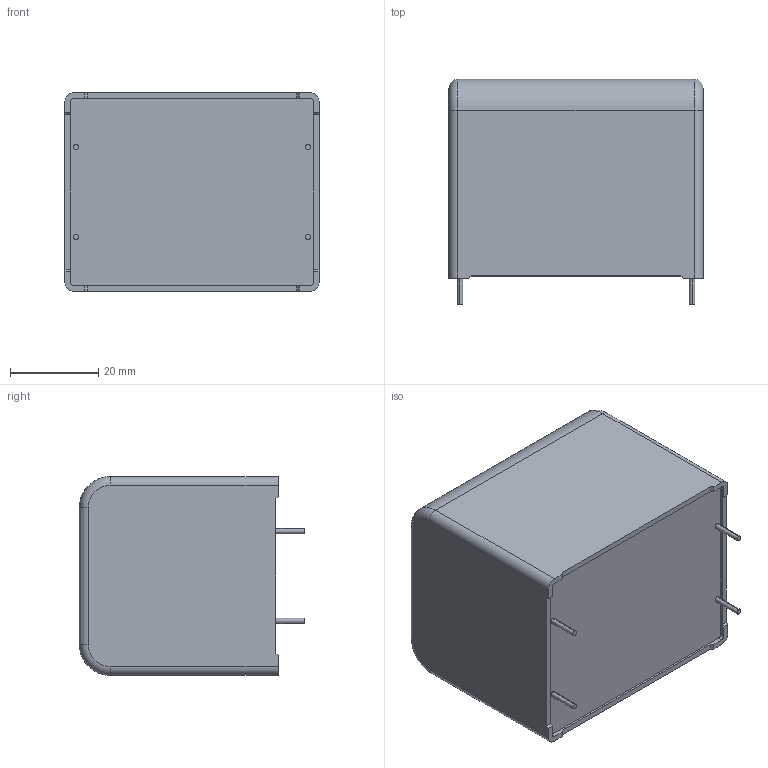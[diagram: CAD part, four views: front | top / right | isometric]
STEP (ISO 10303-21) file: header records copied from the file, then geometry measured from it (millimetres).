
FILE_DESCRIPTION (( 'STEP AP203' ), '1' );
FILE_NAME ('DC_Link_45x45x57.5_4pins20.3.step', '2017-04-03T16:00:22', ( 'work' ), ( 'Hewlett-Packard Company' ), 'SwSTEP 2.0', 'SolidWorks 2017', '' );
FILE_SCHEMA (( 'CONFIG_CONTROL_DESIGN' ));
Length unit declared in the file: millimetre
Products named in the file (1): DC_Link_45x45x57.5_4pins20.3
Bounding box: 57.5 x 51 x 45 mm (x, y, z)
Volume: 112604.9 mm3; surface area: 13920 mm2
Topology: 1 solids, 1 shells, 122 faces, 319 edges, 210 vertices
Faces by surface type: plane 82, cylinder 20, bspline 16, torus 4
Entity records: 4492 total; most frequent: CARTESIAN_POINT 1476, ORIENTED_EDGE 638, DIRECTION 545, EDGE_CURVE 319, VECTOR 243, LINE 243, VERTEX_POINT 210, AXIS2_PLACEMENT_3D 151
